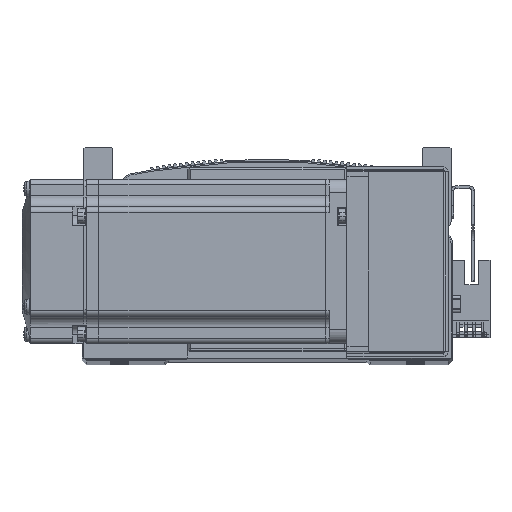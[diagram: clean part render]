
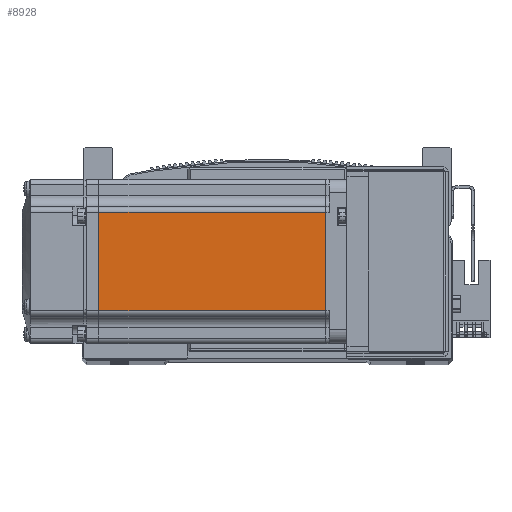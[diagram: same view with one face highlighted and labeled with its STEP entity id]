
A CAD part, top view. The second image highlights one B-rep face of the part: STEP entity #8928.
In plain terms, the highlighted planar face has unit normal (0, 0, 1) as drawn and (0, -1, 0) by its records, which use the part's own axes.
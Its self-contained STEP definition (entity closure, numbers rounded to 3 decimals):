
#8928 = ADVANCED_FACE ( 'NONE', ( #59663 ), #55450, .T. ) ;
#10633 = AXIS2_PLACEMENT_3D ( 'NONE', #55459, #55454, #55462 ) ;
#12836 = VERTEX_POINT ( 'NONE', #27262 ) ;
#12838 = VERTEX_POINT ( 'NONE', #27195 ) ;
#12857 = VERTEX_POINT ( 'NONE', #27291 ) ;
#12870 = VERTEX_POINT ( 'NONE', #27268 ) ;
#20799 = EDGE_LOOP ( 'NONE', ( #31184, #29238, #31160, #31181 ) ) ;
#27195 = CARTESIAN_POINT ( 'NONE',  ( -90.45, -30., -18. ) ) ;
#27262 = CARTESIAN_POINT ( 'NONE',  ( -90.45, -30., 18. ) ) ;
#27268 = CARTESIAN_POINT ( 'NONE',  ( -7.75, -30., 18. ) ) ;
#27291 = CARTESIAN_POINT ( 'NONE',  ( -7.75, -30., -18. ) ) ;
#29238 = ORIENTED_EDGE ( 'NONE', *, *, #71334, .T. ) ;
#31160 = ORIENTED_EDGE ( 'NONE', *, *, #71244, .T. ) ;
#31181 = ORIENTED_EDGE ( 'NONE', *, *, #71342, .F. ) ;
#31184 = ORIENTED_EDGE ( 'NONE', *, *, #71435, .F. ) ;
#33949 = VECTOR ( 'NONE', #48368, 1000. ) ;
#34029 = LINE ( 'NONE', #48364, #33949 ) ;
#42304 = LINE ( 'NONE', #48535, #42321 ) ;
#42307 = LINE ( 'NONE', #48527, #42346 ) ;
#42321 = VECTOR ( 'NONE', #48523, 1000. ) ;
#42346 = VECTOR ( 'NONE', #48518, 1000. ) ;
#42373 = LINE ( 'NONE', #48599, #42388 ) ;
#42388 = VECTOR ( 'NONE', #48603, 1000. ) ;
#48364 = CARTESIAN_POINT ( 'NONE',  ( -90.45, -30., 0. ) ) ;
#48368 = DIRECTION ( 'NONE',  ( 0., 0., -1. ) ) ;
#48518 = DIRECTION ( 'NONE',  ( -1., 0., 0. ) ) ;
#48523 = DIRECTION ( 'NONE',  ( -1., 0., 0. ) ) ;
#48527 = CARTESIAN_POINT ( 'NONE',  ( -6.5, -30., 18. ) ) ;
#48535 = CARTESIAN_POINT ( 'NONE',  ( -6.5, -30., -18. ) ) ;
#48599 = CARTESIAN_POINT ( 'NONE',  ( -7.75, -30., 0. ) ) ;
#48603 = DIRECTION ( 'NONE',  ( 0., 0., -1. ) ) ;
#55450 = PLANE ( 'NONE',  #10633 ) ;
#55454 = DIRECTION ( 'NONE',  ( 0., -1., 0. ) ) ;
#55459 = CARTESIAN_POINT ( 'NONE',  ( -6.5, -30., -25. ) ) ;
#55462 = DIRECTION ( 'NONE',  ( 0., 0., -1. ) ) ;
#59663 = FACE_OUTER_BOUND ( 'NONE', #20799, .T. ) ;
#71244 = EDGE_CURVE ( 'NONE', #12836, #12838, #34029, .T. ) ;
#71334 = EDGE_CURVE ( 'NONE', #12870, #12836, #42307, .T. ) ;
#71342 = EDGE_CURVE ( 'NONE', #12857, #12838, #42304, .T. ) ;
#71435 = EDGE_CURVE ( 'NONE', #12870, #12857, #42373, .T. ) ;
